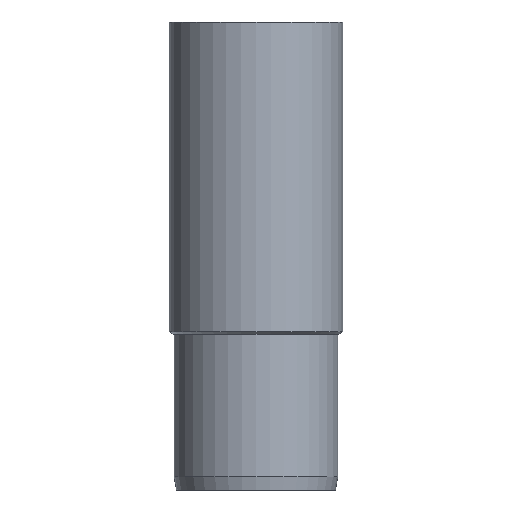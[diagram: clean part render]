
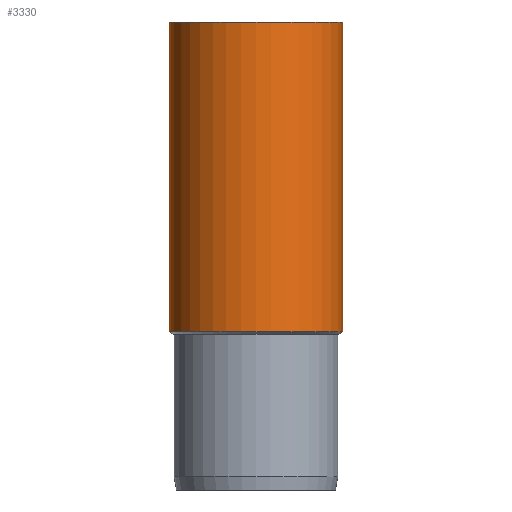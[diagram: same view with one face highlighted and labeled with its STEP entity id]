
A CAD part, front view. The second image highlights one B-rep face of the part: STEP entity #3330.
In plain terms, the highlighted cylindrical face has radius 22.25 mm (diameter 44.5 mm), a partial arc.
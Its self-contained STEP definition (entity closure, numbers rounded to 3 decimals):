
#1360=CARTESIAN_POINT('',(18.298,51.165,40.577));
#1370=VERTEX_POINT('',#1360);
#1400=CARTESIAN_POINT('',(40.548,51.165,40.577));
#1410=DIRECTION('',(0.,0.,1.));
#1420=DIRECTION('',(1.,0.,0.));
#1430=AXIS2_PLACEMENT_3D('',#1400,#1410,#1420);
#1440=CIRCLE('',#1430,22.25);
#1450=CARTESIAN_POINT('',(62.798,51.165,40.577));
#1460=VERTEX_POINT('',#1450);
#1470=EDGE_CURVE('',#1370,#1460,#1440,.T.);
#1870=CARTESIAN_POINT('',(40.548,51.165,120.));
#1880=DIRECTION('',(0.,0.,1.));
#1890=DIRECTION('',(1.,0.,0.));
#1900=AXIS2_PLACEMENT_3D('',#1870,#1880,#1890);
#1910=CIRCLE('',#1900,22.25);
#1920=CARTESIAN_POINT('',(62.798,51.165,120.));
#1930=VERTEX_POINT('',#1920);
#1940=CARTESIAN_POINT('',(18.298,51.165,120.));
#1950=VERTEX_POINT('',#1940);
#1980=EDGE_CURVE('',#1950,#1930,#1910,.T.);
#3120=CARTESIAN_POINT('',(40.548,51.165,0.));
#3130=DIRECTION('',(0.,0.,1.));
#3140=DIRECTION('',(1.,0.,0.));
#3150=AXIS2_PLACEMENT_3D('',#3120,#3130,#3140);
#3160=CYLINDRICAL_SURFACE('',#3150,22.25);
#3170=CARTESIAN_POINT('',(18.298,51.165,0.));
#3180=DIRECTION('',(0.,0.,1.));
#3190=VECTOR('',#3180,1.);
#3200=LINE('',#3170,#3190);
#3210=EDGE_CURVE('',#1370,#1950,#3200,.T.);
#3220=ORIENTED_EDGE('',*,*,#3210,.F.);
#3230=ORIENTED_EDGE('',*,*,#1980,.F.);
#3240=CARTESIAN_POINT('',(62.798,51.165,0.));
#3250=DIRECTION('',(0.,0.,1.));
#3260=VECTOR('',#3250,1.);
#3270=LINE('',#3240,#3260);
#3280=EDGE_CURVE('',#1460,#1930,#3270,.T.);
#3290=ORIENTED_EDGE('',*,*,#3280,.T.);
#3300=ORIENTED_EDGE('',*,*,#1470,.T.);
#3310=EDGE_LOOP('',(#3300,#3290,#3230,#3220));
#3320=FACE_OUTER_BOUND('',#3310,.T.);
#3330=ADVANCED_FACE('',(#3320),#3160,.T.);
